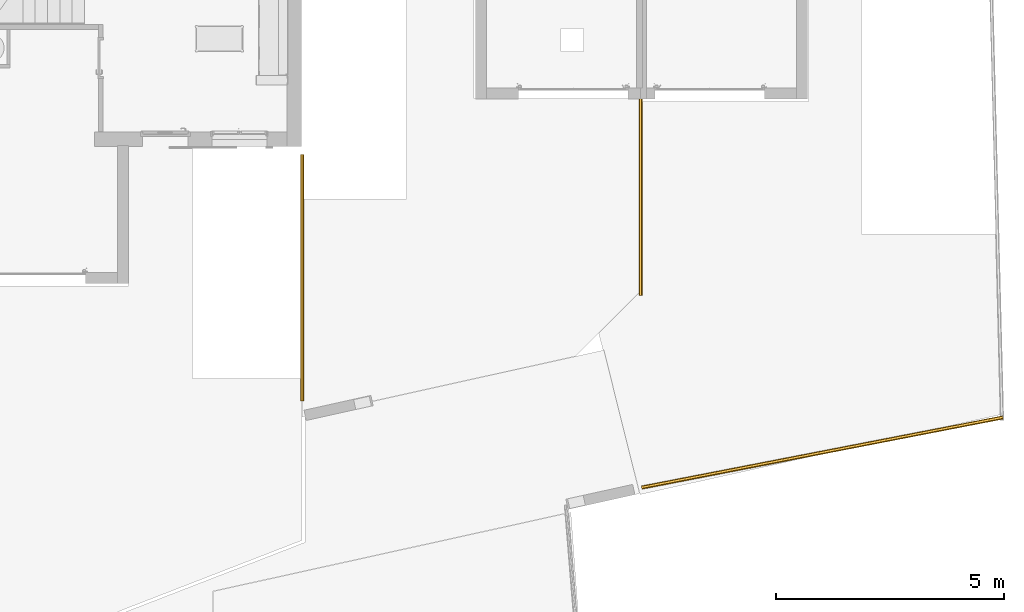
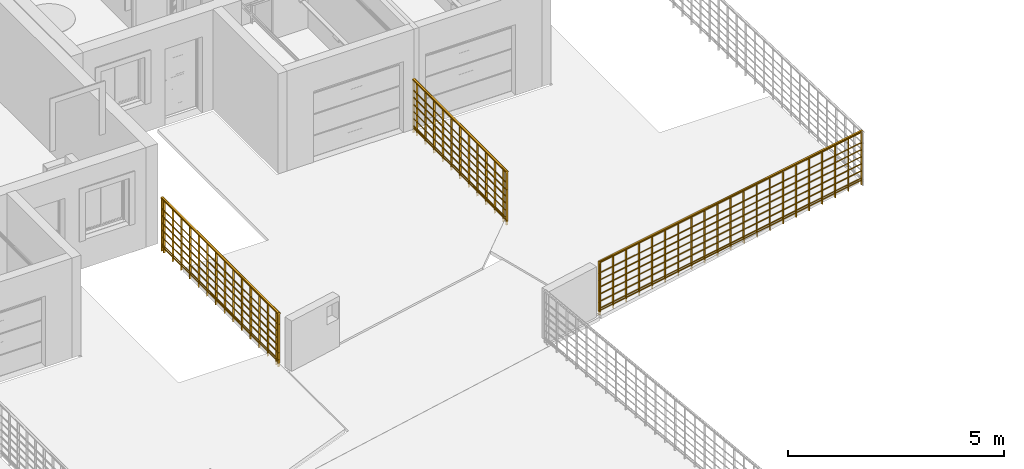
# One storey, part 25 of 30: 3 railings.
"""IFC2X3 building model written with IfcOpenShell, lengths in metres."""

from ifc_helpers import new_model, entity, si_unit, converted_unit, derived_unit, direction, frame, frame_2d, origin, origin_2d_with_axis, place, context, subcontext, project, spatial, polyline, rectangle, circle, outline, extrude, material, material_list, element, save


model = new_model("IFC2X3")

# Units and contexts
model_context = context("Model", 3, precision=1e-05, world=origin(), true_north=direction((6.12303176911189e-17, 1.0)))
body_context = subcontext(model_context, "Body", "Model", "MODEL_VIEW")
ifc_project = project(units=[si_unit("LENGTHUNIT", "METRE"), si_unit("AREAUNIT", "SQUARE_METRE"), si_unit("VOLUMEUNIT", "CUBIC_METRE"), converted_unit("PLANEANGLEUNIT", "DEGREE", entity("IfcRatioMeasure", 0.0174532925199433), si_unit("PLANEANGLEUNIT", "RADIAN"), dimensions=[0, 0, 0, 0, 0, 0, 0]), si_unit("MASSUNIT", "GRAM", prefix="KILO"), derived_unit("MASSDENSITYUNIT", [(si_unit("MASSUNIT", "GRAM", prefix="KILO"), 1), (si_unit("LENGTHUNIT", "METRE"), -3)]), si_unit("TIMEUNIT", "SECOND"), si_unit("FREQUENCYUNIT", "HERTZ"), si_unit("THERMODYNAMICTEMPERATUREUNIT", "DEGREE_CELSIUS"), derived_unit("THERMALTRANSMITTANCEUNIT", [(si_unit("MASSUNIT", "GRAM", prefix="KILO"), 1), (si_unit("THERMODYNAMICTEMPERATUREUNIT", "KELVIN"), -1), (si_unit("TIMEUNIT", "SECOND"), -3)]), derived_unit("VOLUMETRICFLOWRATEUNIT", [(si_unit("LENGTHUNIT", "METRE"), 3), (si_unit("TIMEUNIT", "SECOND"), -1)]), si_unit("ELECTRICCURRENTUNIT", "AMPERE"), si_unit("ELECTRICVOLTAGEUNIT", "VOLT"), si_unit("POWERUNIT", "WATT"), si_unit("FORCEUNIT", "NEWTON", prefix="KILO"), si_unit("ILLUMINANCEUNIT", "LUX"), si_unit("LUMINOUSFLUXUNIT", "LUMEN"), si_unit("LUMINOUSINTENSITYUNIT", "CANDELA"), derived_unit("USERDEFINED", [(si_unit("MASSUNIT", "GRAM", prefix="KILO"), -1), (si_unit("LENGTHUNIT", "METRE"), -2), (si_unit("TIMEUNIT", "SECOND"), 3), (si_unit("LUMINOUSFLUXUNIT", "LUMEN"), 1)]), derived_unit("LINEARVELOCITYUNIT", [(si_unit("LENGTHUNIT", "METRE"), 1), (si_unit("TIMEUNIT", "SECOND"), -1)]), si_unit("PRESSUREUNIT", "PASCAL"), derived_unit("USERDEFINED", [(si_unit("LENGTHUNIT", "METRE"), -2), (si_unit("MASSUNIT", "GRAM", prefix="KILO"), 1), (si_unit("TIMEUNIT", "SECOND"), -2)])], contexts=[model_context])

# Site, building, storey
site_placement = place(None, origin())
site = spatial("IfcSite", under=ifc_project, at=site_placement, Name="Surface", CompositionType="ELEMENT")
building_placement = place(site_placement, origin())
building = spatial("IfcBuilding", under=site, at=building_placement, CompositionType="ELEMENT")
storey_placement = place(building_placement, origin())
storey = spatial("IfcBuildingStorey", under=building, at=storey_placement, Name="Plan des fondations  Maisons 1 et 2", CompositionType="ELEMENT", Elevation=0.0)

# Railings
ifc_material_1 = material(Name="Bois")
ifc_material_2 = material(Name="Finition Peinture Grise")
ifc_material_list_1 = material_list([ifc_material_1, ifc_material_2])
railing_1_placement = place(building_placement, origin())
element("IfcRailing", 1, at=railing_1_placement, inside=storey, material=ifc_material_list_1, Name="Garde-corps:Type Bateau 1,50 m", ObjectType="Garde-corps:Type Bateau 1,50 m", PredefinedType="NOTDEFINED", context=body_context, shape_type="SweptSolid", body=[
    extrude(rectangle(XDim=0.0500000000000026, YDim=0.0140000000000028, at=origin_2d_with_axis()), frame((83.7610835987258, 72.4244664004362, -0.1), z_axis=(0.0, 0.0, 1.0), x_axis=(0.190584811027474, -0.981670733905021, 0.0)), (0.0, 0.0, 1.0), 1.46984653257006),
    extrude(rectangle(XDim=0.0500000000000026, YDim=0.0140000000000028, at=frame_2d((-8.50361447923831e-15, 1.65058938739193e-15), x_axis=(1.0, 0.0))), frame((84.1537518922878, 72.5007003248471, -0.1), z_axis=(0.0, 0.0, 1.0), x_axis=(0.190584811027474, -0.981670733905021, 0.0)), (0.0, 0.0, 1.0), 1.46984653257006),
    extrude(rectangle(XDim=0.0500000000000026, YDim=0.0140000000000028, at=origin_2d_with_axis()), frame((84.5464201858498, 72.5769342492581, -0.1), z_axis=(0.0, 0.0, 1.0), x_axis=(0.190584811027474, -0.981670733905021, 0.0)), (0.0, 0.0, 1.0), 1.46984653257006),
    extrude(rectangle(XDim=0.0500000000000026, YDim=0.0140000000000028, at=origin_2d_with_axis()), frame((84.9390884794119, 72.653168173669, -0.1), z_axis=(0.0, 0.0, 1.0), x_axis=(0.190584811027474, -0.981670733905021, 0.0)), (0.0, 0.0, 1.0), 1.46984653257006),
    extrude(rectangle(XDim=0.0500000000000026, YDim=0.0140000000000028, at=origin_2d_with_axis()), frame((85.3317567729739, 72.7294020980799, -0.1), z_axis=(0.0, 0.0, 1.0), x_axis=(0.190584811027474, -0.981670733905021, 0.0)), (0.0, 0.0, 1.0), 1.46984653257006),
    extrude(rectangle(XDim=0.0500000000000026, YDim=0.0140000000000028, at=frame_2d((-8.50361447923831e-15, 1.65058938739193e-15), x_axis=(1.0, 0.0))), frame((85.7244250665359, 72.8056360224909, -0.1), z_axis=(0.0, 0.0, 1.0), x_axis=(0.190584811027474, -0.981670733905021, 0.0)), (0.0, 0.0, 1.0), 1.46984653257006),
    extrude(rectangle(XDim=0.0500000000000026, YDim=0.0140000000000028, at=frame_2d((8.50361447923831e-15, -1.65058938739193e-15), x_axis=(1.0, 0.0))), frame((86.1170933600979, 72.8818699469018, -0.1), z_axis=(0.0, 0.0, 1.0), x_axis=(0.190584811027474, -0.981670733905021, 0.0)), (0.0, 0.0, 1.0), 1.46984653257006),
    extrude(rectangle(XDim=0.0500000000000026, YDim=0.0140000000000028, at=origin_2d_with_axis()), frame((86.5097616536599, 72.9581038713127, -0.1), z_axis=(0.0, 0.0, 1.0), x_axis=(0.190584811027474, -0.981670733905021, 0.0)), (0.0, 0.0, 1.0), 1.46984653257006),
    extrude(rectangle(XDim=0.0500000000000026, YDim=0.0140000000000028, at=origin_2d_with_axis()), frame((86.9024299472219, 73.0343377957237, -0.1), z_axis=(0.0, 0.0, 1.0), x_axis=(0.190584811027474, -0.981670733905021, 0.0)), (0.0, 0.0, 1.0), 1.46984653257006),
    extrude(rectangle(XDim=0.0500000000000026, YDim=0.0140000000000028, at=frame_2d((-8.50361447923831e-15, 1.65058938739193e-15), x_axis=(1.0, 0.0))), frame((87.295098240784, 73.1105717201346, -0.1), z_axis=(0.0, 0.0, 1.0), x_axis=(0.190584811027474, -0.981670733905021, 0.0)), (0.0, 0.0, 1.0), 1.46984653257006),
    extrude(rectangle(XDim=0.0500000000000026, YDim=0.0140000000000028, at=origin_2d_with_axis()), frame((87.687766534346, 73.1868056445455, -0.1), z_axis=(0.0, 0.0, 1.0), x_axis=(0.190584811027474, -0.981670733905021, 0.0)), (0.0, 0.0, 1.0), 1.46984653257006),
    extrude(rectangle(XDim=0.0500000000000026, YDim=0.0140000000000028, at=origin_2d_with_axis()), frame((88.080434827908, 73.2630395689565, -0.1), z_axis=(0.0, 0.0, 1.0), x_axis=(0.190584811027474, -0.981670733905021, 0.0)), (0.0, 0.0, 1.0), 1.46984653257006),
    extrude(rectangle(XDim=0.0500000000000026, YDim=0.0140000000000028, at=origin_2d_with_axis()), frame((88.47310312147, 73.3392734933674, -0.1), z_axis=(0.0, 0.0, 1.0), x_axis=(0.190584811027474, -0.981670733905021, 0.0)), (0.0, 0.0, 1.0), 1.46984653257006),
    extrude(rectangle(XDim=0.0500000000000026, YDim=0.0140000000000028, at=origin_2d_with_axis()), frame((88.865771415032, 73.4155074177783, -0.1), z_axis=(0.0, 0.0, 1.0), x_axis=(0.190584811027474, -0.981670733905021, 0.0)), (0.0, 0.0, 1.0), 1.46984653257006),
    extrude(rectangle(XDim=0.0500000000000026, YDim=0.0140000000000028, at=frame_2d((-8.50361447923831e-15, 1.65058938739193e-15), x_axis=(1.0, 0.0))), frame((89.2584397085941, 73.4917413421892, -0.1), z_axis=(0.0, 0.0, 1.0), x_axis=(0.190584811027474, -0.981670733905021, 0.0)), (0.0, 0.0, 1.0), 1.46984653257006),
    extrude(rectangle(XDim=0.0500000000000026, YDim=0.0140000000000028, at=frame_2d((8.50361447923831e-15, -1.65058938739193e-15), x_axis=(1.0, 0.0))), frame((89.6511080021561, 73.5679752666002, -0.1), z_axis=(0.0, 0.0, 1.0), x_axis=(0.190584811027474, -0.981670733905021, 0.0)), (0.0, 0.0, 1.0), 1.46984653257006),
    extrude(rectangle(XDim=0.0500000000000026, YDim=0.0140000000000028, at=origin_2d_with_axis()), frame((90.0437762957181, 73.6442091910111, -0.1), z_axis=(0.0, 0.0, 1.0), x_axis=(0.190584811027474, -0.981670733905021, 0.0)), (0.0, 0.0, 1.0), 1.46984653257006),
    extrude(rectangle(XDim=0.0500000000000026, YDim=0.0140000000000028, at=origin_2d_with_axis()), frame((90.4364445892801, 73.7204431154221, -0.1), z_axis=(0.0, 0.0, 1.0), x_axis=(0.190584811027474, -0.981670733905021, 0.0)), (0.0, 0.0, 1.0), 1.46984653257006),
    extrude(rectangle(XDim=0.0500000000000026, YDim=0.0140000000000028, at=frame_2d((-8.50361447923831e-15, 1.65058938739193e-15), x_axis=(1.0, 0.0))), frame((90.8291128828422, 73.796677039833, -0.1), z_axis=(0.0, 0.0, 1.0), x_axis=(0.190584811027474, -0.981670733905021, 0.0)), (0.0, 0.0, 1.0), 1.46984653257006),
    extrude(rectangle(XDim=0.0500000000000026, YDim=0.0140000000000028, at=origin_2d_with_axis()), frame((91.2217811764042, 73.8729109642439, -0.1), z_axis=(0.0, 0.0, 1.0), x_axis=(0.190584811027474, -0.981670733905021, 0.0)), (0.0, 0.0, 1.0), 1.46984653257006),
    extrude(rectangle(XDim=0.0500000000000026, YDim=0.0140000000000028, at=origin_2d_with_axis()), frame((91.6144494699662, 73.9491448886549, -0.1), z_axis=(0.0, 0.0, 1.0), x_axis=(0.190584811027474, -0.981670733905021, 0.0)), (0.0, 0.0, 1.0), 1.46984653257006),
    extrude(rectangle(XDim=0.0500000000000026, YDim=0.0140000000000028, at=origin_2d_with_axis()), frame((83.7417761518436, 72.4207179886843, -0.1), z_axis=(0.0, 0.0, 1.0), x_axis=(0.190584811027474, -0.981670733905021, 0.0)), (0.0, 0.0, 1.0), 1.46984653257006),
    extrude(rectangle(XDim=0.0500000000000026, YDim=0.0140000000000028, at=frame_2d((-8.50361447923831e-15, 1.65058938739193e-15), x_axis=(1.0, 0.0))), frame((91.6337569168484, 73.9528933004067, -0.1), z_axis=(0.0, 0.0, 1.0), x_axis=(0.190584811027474, -0.981670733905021, 0.0)), (0.0, 0.0, 1.0), 1.46984653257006),
    extrude(outline(polyline([(-0.0109067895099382, -0.038484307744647), (0.00177588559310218, -0.038484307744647), (0.0141514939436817, -0.0318300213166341), (0.0240801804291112, -0.0196720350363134), (0.0298451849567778, -0.00411257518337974), (0.0304496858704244, 0.0121579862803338), (0.0257891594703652, 0.0263263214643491), (0.0166694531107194, 0.0359425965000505), (0.0109067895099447, 0.0384843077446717), (-0.00177588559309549, 0.0384843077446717), (-0.014151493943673, 0.0318300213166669), (-0.0240801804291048, 0.0196720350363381), (-0.0298451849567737, 0.00411257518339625), (-0.0304496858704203, -0.0121579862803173), (-0.0257891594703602, -0.0263263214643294), (-0.0166694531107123, -0.0359425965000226), (-0.0109067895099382, -0.038484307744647)])), frame((83.7332120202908, 72.4185469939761, 1.4), z_axis=(0.98167073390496, 0.190584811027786, 0.0), x_axis=(-0.0519667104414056, 0.267671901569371, -0.962107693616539)), (0.0, 0.0, 1.0), 8.05933589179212),
    extrude(circle(Radius=0.015, at=origin_2d_with_axis()), frame((83.7332120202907, 72.4185469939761, 0.025), z_axis=(0.981670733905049, 0.190584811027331, 0.0), x_axis=(-0.190584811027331, 0.981670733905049, 0.0)), (0.0, 0.0, 1.0), 8.05933589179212),
    extrude(circle(Radius=0.015, at=origin_2d_with_axis()), frame((83.7332120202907, 72.4185469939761, 1.085), z_axis=(0.981670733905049, 0.190584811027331, 0.0), x_axis=(-0.190584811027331, 0.981670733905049, 0.0)), (0.0, 0.0, 1.0), 8.05933589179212),
    extrude(circle(Radius=0.015, at=origin_2d_with_axis()), frame((83.7332120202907, 72.4185469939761, 0.885), z_axis=(0.981670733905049, 0.190584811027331, 0.0), x_axis=(-0.190584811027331, 0.981670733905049, 0.0)), (0.0, 0.0, 1.0), 8.05933589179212),
    extrude(circle(Radius=0.015, at=origin_2d_with_axis()), frame((83.7332120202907, 72.4185469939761, 0.685), z_axis=(0.981670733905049, 0.190584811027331, 0.0), x_axis=(-0.190584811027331, 0.981670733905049, 0.0)), (0.0, 0.0, 1.0), 8.05933589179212),
    extrude(circle(Radius=0.015, at=origin_2d_with_axis()), frame((83.7332120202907, 72.4185469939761, 0.485), z_axis=(0.981670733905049, 0.190584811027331, 0.0), x_axis=(-0.190584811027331, 0.981670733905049, 0.0)), (0.0, 0.0, 1.0), 8.05933589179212),
    extrude(circle(Radius=0.015, at=origin_2d_with_axis()), frame((83.7332120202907, 72.4185469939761, 0.285), z_axis=(0.981670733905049, 0.190584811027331, 0.0), x_axis=(-0.190584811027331, 0.981670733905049, 0.0)), (0.0, 0.0, 1.0), 8.05933589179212),
    extrude(circle(Radius=0.015, at=origin_2d_with_axis()), frame((83.7332120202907, 72.4185469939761, 0.085), z_axis=(0.981670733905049, 0.190584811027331, 0.0), x_axis=(-0.190584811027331, 0.981670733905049, 0.0)), (0.0, 0.0, 1.0), 8.05933589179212),
])
ifc_material_list_2 = material_list([ifc_material_1, ifc_material_2])
railing_2_placement = place(building_placement, origin())
element("IfcRailing", 2, at=railing_2_placement, inside=storey, material=ifc_material_list_2, Name="Garde-corps:Type Bateau 1,50 m", ObjectType="Garde-corps:Type Bateau 1,50 m", PredefinedType="NOTDEFINED", context=body_context, shape_type="SweptSolid", body=[
    extrude(rectangle(XDim=0.050000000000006, YDim=0.0139999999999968, at=frame_2d((-8.6614743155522e-15, 0.0), x_axis=(1.0, 0.0))), frame((83.7112867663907, 76.7860556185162, -0.1)), (0.0, 0.0, 1.0), 1.46984653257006),
    extrude(rectangle(XDim=0.050000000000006, YDim=0.0139999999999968, at=frame_2d((-8.6614743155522e-15, 0.0), x_axis=(1.0, 0.0))), frame((83.7112867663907, 77.1860556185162, -0.1)), (0.0, 0.0, 1.0), 1.46984653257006),
    extrude(rectangle(XDim=0.050000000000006, YDim=0.0139999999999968, at=frame_2d((-8.6614743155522e-15, 0.0), x_axis=(1.0, 0.0))), frame((83.7112867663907, 77.5860556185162, -0.1)), (0.0, 0.0, 1.0), 1.46984653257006),
    extrude(rectangle(XDim=0.050000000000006, YDim=0.0139999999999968, at=frame_2d((-8.6614743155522e-15, 0.0), x_axis=(1.0, 0.0))), frame((83.7112867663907, 77.9860556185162, -0.1)), (0.0, 0.0, 1.0), 1.46984653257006),
    extrude(rectangle(XDim=0.050000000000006, YDim=0.0139999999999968, at=frame_2d((-8.6614743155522e-15, 0.0), x_axis=(1.0, 0.0))), frame((83.7112867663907, 78.3860556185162, -0.1)), (0.0, 0.0, 1.0), 1.46984653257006),
    extrude(rectangle(XDim=0.050000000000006, YDim=0.0139999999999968, at=frame_2d((-8.6614743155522e-15, 0.0), x_axis=(1.0, 0.0))), frame((83.7112867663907, 78.7860556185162, -0.1)), (0.0, 0.0, 1.0), 1.46984653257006),
    extrude(rectangle(XDim=0.050000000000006, YDim=0.0139999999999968, at=frame_2d((-8.6614743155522e-15, 0.0), x_axis=(1.0, 0.0))), frame((83.7112867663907, 79.1860556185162, -0.1)), (0.0, 0.0, 1.0), 1.46984653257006),
    extrude(rectangle(XDim=0.050000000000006, YDim=0.0139999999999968, at=frame_2d((-8.6614743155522e-15, 0.0), x_axis=(1.0, 0.0))), frame((83.7112867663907, 79.5860556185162, -0.1)), (0.0, 0.0, 1.0), 1.46984653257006),
    extrude(rectangle(XDim=0.050000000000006, YDim=0.0139999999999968, at=frame_2d((-8.6614743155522e-15, 0.0), x_axis=(1.0, 0.0))), frame((83.7112867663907, 79.9860556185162, -0.1)), (0.0, 0.0, 1.0), 1.46984653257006),
    extrude(rectangle(XDim=0.050000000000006, YDim=0.0139999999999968, at=frame_2d((-8.6614743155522e-15, 0.0), x_axis=(1.0, 0.0))), frame((83.7112867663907, 80.3860556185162, -0.1)), (0.0, 0.0, 1.0), 1.46984653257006),
    extrude(rectangle(XDim=0.050000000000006, YDim=0.0139999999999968, at=frame_2d((-8.6614743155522e-15, 0.0), x_axis=(1.0, 0.0))), frame((83.7112867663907, 80.7860556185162, -0.1)), (0.0, 0.0, 1.0), 1.46984653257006),
    extrude(rectangle(XDim=0.050000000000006, YDim=0.0139999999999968, at=frame_2d((-8.6614743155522e-15, 0.0), x_axis=(1.0, 0.0))), frame((83.7112867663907, 76.6360556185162, -0.1)), (0.0, 0.0, 1.0), 1.46984653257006),
    extrude(rectangle(XDim=0.050000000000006, YDim=0.0139999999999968, at=frame_2d((-8.6614743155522e-15, 0.0), x_axis=(1.0, 0.0))), frame((83.7112867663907, 80.9360556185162, -0.1)), (0.0, 0.0, 1.0), 1.46984653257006),
    extrude(outline(polyline([(-0.01090678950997, -0.0384843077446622), (0.00177588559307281, -0.0384843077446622), (0.0141514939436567, -0.0318300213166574), (0.0240801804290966, -0.0196720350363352), (0.0298451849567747, -0.00411257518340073), (0.030449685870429, 0.0121579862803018), (0.0257891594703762, 0.0263263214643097), (0.016669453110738, 0.0359425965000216), (0.0109067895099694, 0.0384843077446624), (-0.00177588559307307, 0.0384843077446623), (-0.0141514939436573, 0.0318300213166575), (-0.0240801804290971, 0.0196720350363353), (-0.0298451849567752, 0.00411257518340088), (-0.0304496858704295, -0.0121579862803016), (-0.0257891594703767, -0.0263263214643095), (-0.0166694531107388, -0.0359425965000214), (-0.01090678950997, -0.0384843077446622)])), frame((83.7117857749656, 76.6272347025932, 1.4), z_axis=(0.0, 1.0, 0.0), x_axis=(-0.272669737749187, 0.0, -0.962107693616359)), (0.0, 0.0, 1.0), 4.32000000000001),
    extrude(circle(Radius=0.015, at=origin_2d_with_axis()), frame((83.7117857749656, 76.6272347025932, 0.025), z_axis=(0.0, 1.0, 0.0), x_axis=(-1.0, 0.0, 0.0)), (0.0, 0.0, 1.0), 4.32000000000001),
    extrude(circle(Radius=0.015, at=origin_2d_with_axis()), frame((83.7117857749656, 76.6272347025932, 1.085), z_axis=(0.0, 1.0, 0.0), x_axis=(-1.0, 0.0, 0.0)), (0.0, 0.0, 1.0), 4.32000000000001),
    extrude(circle(Radius=0.015, at=origin_2d_with_axis()), frame((83.7117857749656, 76.6272347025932, 0.885), z_axis=(0.0, 1.0, 0.0), x_axis=(-1.0, 0.0, 0.0)), (0.0, 0.0, 1.0), 4.32000000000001),
    extrude(circle(Radius=0.015, at=origin_2d_with_axis()), frame((83.7117857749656, 76.6272347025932, 0.685), z_axis=(0.0, 1.0, 0.0), x_axis=(-1.0, 0.0, 0.0)), (0.0, 0.0, 1.0), 4.32000000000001),
    extrude(circle(Radius=0.015, at=origin_2d_with_axis()), frame((83.7117857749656, 76.6272347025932, 0.485), z_axis=(0.0, 1.0, 0.0), x_axis=(-1.0, 0.0, 0.0)), (0.0, 0.0, 1.0), 4.32000000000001),
    extrude(circle(Radius=0.015, at=origin_2d_with_axis()), frame((83.7117857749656, 76.6272347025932, 0.285), z_axis=(0.0, 1.0, 0.0), x_axis=(-1.0, 0.0, 0.0)), (0.0, 0.0, 1.0), 4.32000000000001),
    extrude(circle(Radius=0.015, at=origin_2d_with_axis()), frame((83.7117857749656, 76.6272347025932, 0.085), z_axis=(0.0, 1.0, 0.0), x_axis=(-1.0, 0.0, 0.0)), (0.0, 0.0, 1.0), 4.32000000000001),
])
ifc_material_list_3 = material_list([ifc_material_1, ifc_material_2])
railing_3_placement = place(building_placement, origin())
element("IfcRailing", 3, at=railing_3_placement, inside=storey, material=ifc_material_list_3, Name="Garde-corps:Type Bateau 1,50 m", ObjectType="Garde-corps:Type Bateau 1,50 m", PredefinedType="NOTDEFINED", context=body_context, shape_type="SweptSolid", body=[
    extrude(rectangle(XDim=0.0499999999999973, YDim=0.0139999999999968, at=frame_2d((4.32986979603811e-15, 0.0), x_axis=(1.0, 0.0))), frame((76.296994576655, 79.6187030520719, -0.1), z_axis=(0.0, 0.0, 1.0), x_axis=(-1.0, 0.0, 0.0)), (0.0, 0.0, 1.0), 1.46984653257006),
    extrude(rectangle(XDim=0.0499999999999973, YDim=0.0139999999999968, at=frame_2d((4.32986979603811e-15, 0.0), x_axis=(1.0, 0.0))), frame((76.296994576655, 79.2187030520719, -0.1), z_axis=(0.0, 0.0, 1.0), x_axis=(-1.0, 0.0, 0.0)), (0.0, 0.0, 1.0), 1.46984653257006),
    extrude(rectangle(XDim=0.0499999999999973, YDim=0.0139999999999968, at=frame_2d((-4.32986979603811e-15, 0.0), x_axis=(1.0, 0.0))), frame((76.296994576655, 78.8187030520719, -0.1), z_axis=(0.0, 0.0, 1.0), x_axis=(-1.0, 0.0, 0.0)), (0.0, 0.0, 1.0), 1.46984653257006),
    extrude(rectangle(XDim=0.0499999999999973, YDim=0.0139999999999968, at=frame_2d((-4.32986979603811e-15, 0.0), x_axis=(1.0, 0.0))), frame((76.296994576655, 78.4187030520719, -0.1), z_axis=(0.0, 0.0, 1.0), x_axis=(-1.0, 0.0, 0.0)), (0.0, 0.0, 1.0), 1.46984653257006),
    extrude(rectangle(XDim=0.0499999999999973, YDim=0.0139999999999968, at=frame_2d((-4.32986979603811e-15, 0.0), x_axis=(1.0, 0.0))), frame((76.296994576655, 78.0187030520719, -0.1), z_axis=(0.0, 0.0, 1.0), x_axis=(-1.0, 0.0, 0.0)), (0.0, 0.0, 1.0), 1.46984653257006),
    extrude(rectangle(XDim=0.0499999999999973, YDim=0.0139999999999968, at=frame_2d((-4.32986979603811e-15, 0.0), x_axis=(1.0, 0.0))), frame((76.296994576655, 77.6187030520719, -0.1), z_axis=(0.0, 0.0, 1.0), x_axis=(-1.0, 0.0, 0.0)), (0.0, 0.0, 1.0), 1.46984653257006),
    extrude(rectangle(XDim=0.0499999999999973, YDim=0.0139999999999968, at=frame_2d((-4.32986979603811e-15, 0.0), x_axis=(1.0, 0.0))), frame((76.296994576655, 77.2187030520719, -0.1), z_axis=(0.0, 0.0, 1.0), x_axis=(-1.0, 0.0, 0.0)), (0.0, 0.0, 1.0), 1.46984653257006),
    extrude(rectangle(XDim=0.0499999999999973, YDim=0.0139999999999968, at=frame_2d((-4.32986979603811e-15, 0.0), x_axis=(1.0, 0.0))), frame((76.296994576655, 76.8187030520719, -0.1), z_axis=(0.0, 0.0, 1.0), x_axis=(-1.0, 0.0, 0.0)), (0.0, 0.0, 1.0), 1.46984653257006),
    extrude(rectangle(XDim=0.0499999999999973, YDim=0.0139999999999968, at=frame_2d((-4.32986979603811e-15, 0.0), x_axis=(1.0, 0.0))), frame((76.296994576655, 76.4187030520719, -0.1), z_axis=(0.0, 0.0, 1.0), x_axis=(-1.0, 0.0, 0.0)), (0.0, 0.0, 1.0), 1.46984653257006),
    extrude(rectangle(XDim=0.0499999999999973, YDim=0.0139999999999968, at=frame_2d((-4.32986979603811e-15, 0.0), x_axis=(1.0, 0.0))), frame((76.296994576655, 76.0187030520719, -0.1), z_axis=(0.0, 0.0, 1.0), x_axis=(-1.0, 0.0, 0.0)), (0.0, 0.0, 1.0), 1.46984653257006),
    extrude(rectangle(XDim=0.0499999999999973, YDim=0.0139999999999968, at=frame_2d((-4.32986979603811e-15, 0.0), x_axis=(1.0, 0.0))), frame((76.296994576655, 75.6187030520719, -0.1), z_axis=(0.0, 0.0, 1.0), x_axis=(-1.0, 0.0, 0.0)), (0.0, 0.0, 1.0), 1.46984653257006),
    extrude(rectangle(XDim=0.0499999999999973, YDim=0.0139999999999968, at=frame_2d((-4.32986979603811e-15, 0.0), x_axis=(1.0, 0.0))), frame((76.296994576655, 75.2187030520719, -0.1), z_axis=(0.0, 0.0, 1.0), x_axis=(-1.0, 0.0, 0.0)), (0.0, 0.0, 1.0), 1.46984653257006),
    extrude(rectangle(XDim=0.0499999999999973, YDim=0.0139999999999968, at=frame_2d((-4.32986979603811e-15, 0.0), x_axis=(1.0, 0.0))), frame((76.296994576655, 74.8187030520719, -0.1), z_axis=(0.0, 0.0, 1.0), x_axis=(-1.0, 0.0, 0.0)), (0.0, 0.0, 1.0), 1.46984653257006),
    extrude(rectangle(XDim=0.0499999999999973, YDim=0.0139999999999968, at=frame_2d((-4.32986979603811e-15, 0.0), x_axis=(1.0, 0.0))), frame((76.296994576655, 74.4187030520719, -0.1), z_axis=(0.0, 0.0, 1.0), x_axis=(-1.0, 0.0, 0.0)), (0.0, 0.0, 1.0), 1.46984653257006),
    extrude(rectangle(XDim=0.0499999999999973, YDim=0.0139999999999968, at=frame_2d((4.32986979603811e-15, 0.0), x_axis=(1.0, 0.0))), frame((76.296994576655, 79.7087030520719, -0.1), z_axis=(0.0, 0.0, 1.0), x_axis=(-1.0, 0.0, 0.0)), (0.0, 0.0, 1.0), 1.46984653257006),
    extrude(rectangle(XDim=0.0499999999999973, YDim=0.0139999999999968, at=frame_2d((-4.32986979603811e-15, 0.0), x_axis=(1.0, 0.0))), frame((76.296994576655, 74.3287030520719, -0.1), z_axis=(0.0, 0.0, 1.0), x_axis=(-1.0, 0.0, 0.0)), (0.0, 0.0, 1.0), 1.46984653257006),
    extrude(outline(polyline([(-0.0109067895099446, -0.0384843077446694), (0.00177588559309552, -0.0384843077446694), (0.0141514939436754, -0.0318300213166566), (0.0240801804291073, -0.0196720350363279), (0.0298451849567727, -0.00411257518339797), (0.0304496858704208, 0.0121579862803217), (0.0257891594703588, 0.0263263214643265), (0.0166694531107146, 0.0359425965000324), (0.0109067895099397, 0.0384843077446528), (-0.00177588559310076, 0.0384843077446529), (-0.0141514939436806, 0.0318300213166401), (-0.0240801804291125, 0.0196720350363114), (-0.0298451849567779, 0.00411257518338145), (-0.0304496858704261, -0.0121579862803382), (-0.025789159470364, -0.026326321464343), (-0.0166694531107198, -0.035942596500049), (-0.0109067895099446, -0.0384843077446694)])), frame((76.2964955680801, 74.3175239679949, 1.4), z_axis=(0.0, 1.0, 0.0), x_axis=(0.27266973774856, 0.0, 0.962107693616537)), (0.0, 0.0, 1.0), 5.39999999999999),
    extrude(circle(Radius=0.015, at=origin_2d_with_axis()), frame((76.29649556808, 74.3175239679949, 0.025), z_axis=(0.0, 1.0, 0.0), x_axis=(1.0, 0.0, 0.0)), (0.0, 0.0, 1.0), 5.39999999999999),
    extrude(circle(Radius=0.015, at=origin_2d_with_axis()), frame((76.29649556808, 74.3175239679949, 1.085), z_axis=(0.0, 1.0, 0.0), x_axis=(1.0, 0.0, 0.0)), (0.0, 0.0, 1.0), 5.39999999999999),
    extrude(circle(Radius=0.015, at=origin_2d_with_axis()), frame((76.29649556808, 74.3175239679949, 0.885), z_axis=(0.0, 1.0, 0.0), x_axis=(1.0, 0.0, 0.0)), (0.0, 0.0, 1.0), 5.39999999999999),
    extrude(circle(Radius=0.015, at=origin_2d_with_axis()), frame((76.29649556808, 74.3175239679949, 0.685), z_axis=(0.0, 1.0, 0.0), x_axis=(1.0, 0.0, 0.0)), (0.0, 0.0, 1.0), 5.39999999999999),
    extrude(circle(Radius=0.015, at=origin_2d_with_axis()), frame((76.29649556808, 74.3175239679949, 0.485), z_axis=(0.0, 1.0, 0.0), x_axis=(1.0, 0.0, 0.0)), (0.0, 0.0, 1.0), 5.39999999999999),
    extrude(circle(Radius=0.015, at=origin_2d_with_axis()), frame((76.29649556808, 74.3175239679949, 0.285), z_axis=(0.0, 1.0, 0.0), x_axis=(1.0, 0.0, 0.0)), (0.0, 0.0, 1.0), 5.39999999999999),
    extrude(circle(Radius=0.015, at=origin_2d_with_axis()), frame((76.29649556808, 74.3175239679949, 0.085), z_axis=(0.0, 1.0, 0.0), x_axis=(1.0, 0.0, 0.0)), (0.0, 0.0, 1.0), 5.39999999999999),
])

save(model, "model.ifc")
